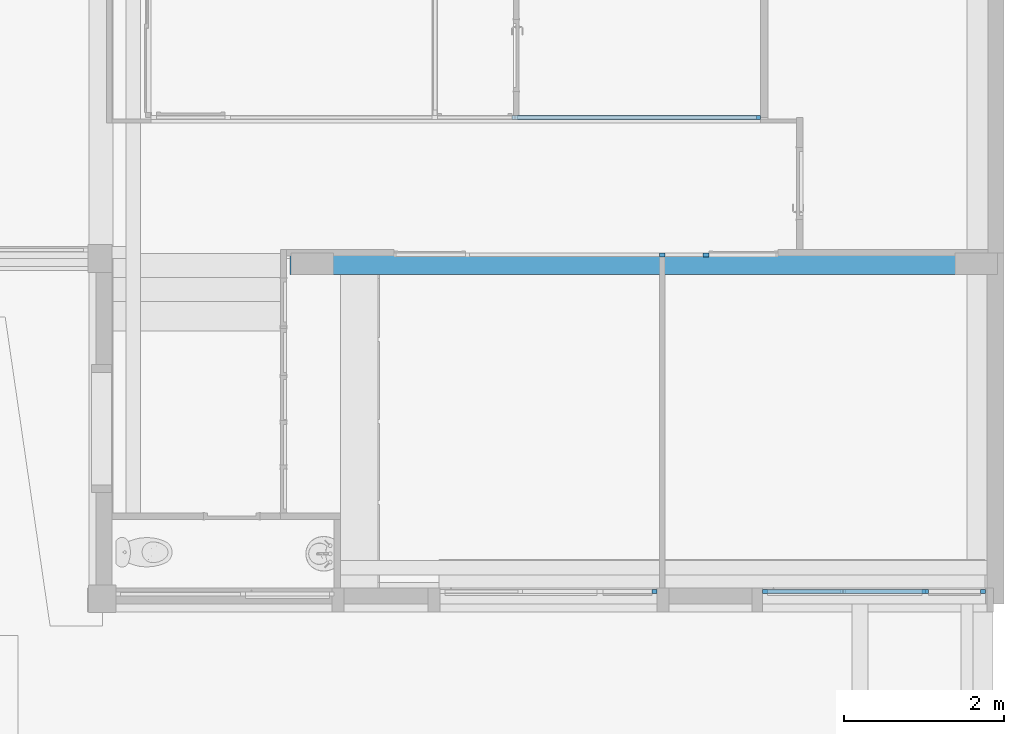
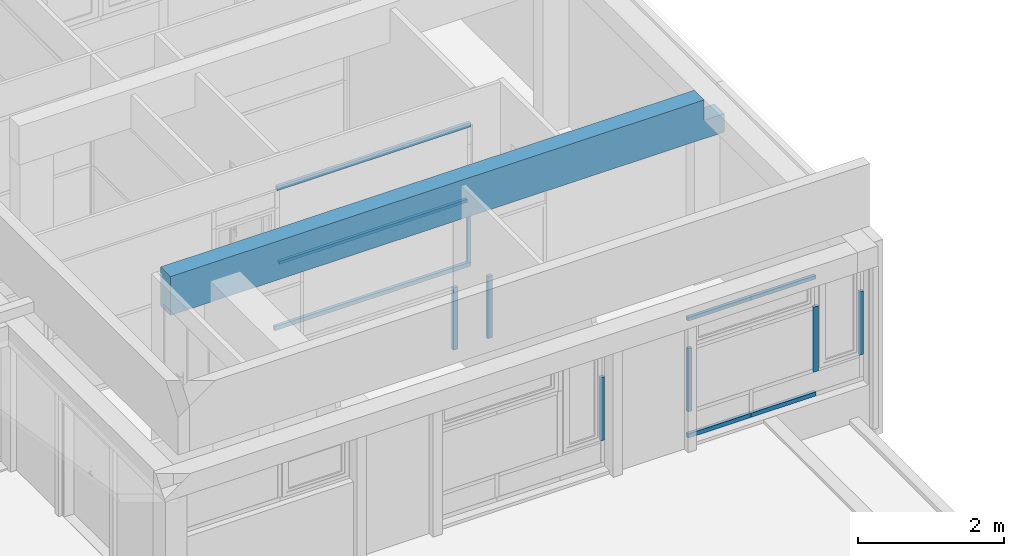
# One storey, part 11 of 49: 14 members, 1 beam, 4 elements without a shape of their own.
"""IFC4 building model written with IfcOpenShell, lengths in metres."""

from ifc_helpers import new_model, entity, si_unit, converted_unit, derived_unit, direction, frame, origin, place, context, subcontext, project, spatial, indexed_curve, outline, extrude, source, transform, mapped, material, type_object, type_shapes, element, aggregate, save


model = new_model("IFC4")

# Units and contexts
model_context = context("Model", 3, precision=1e-05, world=origin(), true_north=direction((6.12303176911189e-17, 1.0)))
body_context = subcontext(model_context, "Body", "Model", "MODEL_VIEW")
ifc_project = project(units=[si_unit("LENGTHUNIT", "METRE"), si_unit("AREAUNIT", "SQUARE_METRE"), si_unit("VOLUMEUNIT", "CUBIC_METRE"), converted_unit("PLANEANGLEUNIT", "DEGREE", entity("IfcRatioMeasure", 0.0174532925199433), si_unit("PLANEANGLEUNIT", "RADIAN"), dimensions=[0, 0, 0, 0, 0, 0, 0]), si_unit("MASSUNIT", "GRAM", prefix="KILO"), derived_unit("MASSDENSITYUNIT", [(si_unit("MASSUNIT", "GRAM", prefix="KILO"), 1), (si_unit("LENGTHUNIT", "METRE"), -3)]), derived_unit("MOMENTOFINERTIAUNIT", [(si_unit("LENGTHUNIT", "METRE"), 4)]), si_unit("TIMEUNIT", "SECOND"), si_unit("FREQUENCYUNIT", "HERTZ"), si_unit("THERMODYNAMICTEMPERATUREUNIT", "DEGREE_CELSIUS"), derived_unit("THERMALTRANSMITTANCEUNIT", [(si_unit("MASSUNIT", "GRAM", prefix="KILO"), 1), (si_unit("THERMODYNAMICTEMPERATUREUNIT", "KELVIN"), -1), (si_unit("TIMEUNIT", "SECOND"), -3)]), derived_unit("VOLUMETRICFLOWRATEUNIT", [(si_unit("LENGTHUNIT", "METRE"), 3), (si_unit("TIMEUNIT", "SECOND"), -1)]), si_unit("ELECTRICCURRENTUNIT", "AMPERE"), si_unit("ELECTRICVOLTAGEUNIT", "VOLT"), si_unit("POWERUNIT", "WATT"), si_unit("FORCEUNIT", "NEWTON", prefix="KILO"), si_unit("ILLUMINANCEUNIT", "LUX"), si_unit("LUMINOUSFLUXUNIT", "LUMEN"), si_unit("LUMINOUSINTENSITYUNIT", "CANDELA"), derived_unit("USERDEFINED", [(si_unit("MASSUNIT", "GRAM", prefix="KILO"), -1), (si_unit("LENGTHUNIT", "METRE"), -2), (si_unit("TIMEUNIT", "SECOND"), 3), (si_unit("LUMINOUSFLUXUNIT", "LUMEN"), 1)]), derived_unit("LINEARVELOCITYUNIT", [(si_unit("LENGTHUNIT", "METRE"), 1), (si_unit("TIMEUNIT", "SECOND"), -1)]), si_unit("PRESSUREUNIT", "PASCAL"), derived_unit("USERDEFINED", [(si_unit("LENGTHUNIT", "METRE"), -2), (si_unit("MASSUNIT", "GRAM", prefix="KILO"), 1), (si_unit("TIMEUNIT", "SECOND"), -2)]), derived_unit("LINEARFORCEUNIT", [(si_unit("MASSUNIT", "GRAM", prefix="KILO"), 1), (si_unit("LENGTHUNIT", "METRE"), 1), (si_unit("TIMEUNIT", "SECOND"), -2), (si_unit("LENGTHUNIT", "METRE"), -1)]), derived_unit("PLANARFORCEUNIT", [(si_unit("MASSUNIT", "GRAM", prefix="KILO"), 1), (si_unit("LENGTHUNIT", "METRE"), 1), (si_unit("TIMEUNIT", "SECOND"), -2), (si_unit("LENGTHUNIT", "METRE"), -2)])], contexts=[model_context])

# Site, building, storey
site_placement = place(None, origin())
site = spatial("IfcSite", under=ifc_project, at=site_placement, Name="Default", CompositionType="ELEMENT")
building_placement = place(site_placement, origin())
building = spatial("IfcBuilding", under=site, at=building_placement, Name="HOTEL CONSULAIRE BOULOGNE SUR MER", CompositionType="ELEMENT")
storey_placement = place(building_placement, frame((0.0, 0.0, 6.81974152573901)))
storey = spatial("IfcBuildingStorey", under=building, at=storey_placement, Name="Niveau 2", CompositionType="ELEMENT", Elevation=6.81974152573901)

# Beam
ifc_material_1 = material(Name="Béton - Béton coulé sur place", Category="Béton")
beam_type = type_object("IfcBeamType", Name="Poutre rectangulaire - Béton:270x650", PredefinedType="BEAM", material=ifc_material_1)
shared_shape_1 = source(origin(), body_context, "Body", "SweptSolid", [
    extrude(outline(indexed_curve([(-4.97999149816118, -0.411428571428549), (3.46892111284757, -0.411428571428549), (3.46892111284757, -0.316428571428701), (3.46892111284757, -0.0714285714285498), (3.71821878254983, -0.0714285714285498), (3.78892111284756, -0.0714285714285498), (3.78892111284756, 0.23857142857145), (3.31621878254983, 0.23857142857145), (-0.302030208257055, 0.23857142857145), (-0.372030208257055, 0.23857142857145), (-4.43750410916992, 0.23857142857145), (-4.96750410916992, 0.23857142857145), (-4.97999149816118, 0.23857142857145), (-4.97999149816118, -0.316428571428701), (-4.97999149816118, -0.411428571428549)], self_intersect=False)), frame((4.97999149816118, 0.0, 0.23857142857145), z_axis=(0.0, 1.0, 0.0), x_axis=(1.0, 0.0, 0.0)), (0.0, 0.0, 1.0), 0.269999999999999),
])
type_shapes(beam_type, [shared_shape_1])
beam_placement = place(storey_placement, frame((13.889725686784, -19.915909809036, 2.402)))
element("IfcBeam", 1, at=beam_placement, inside=storey, type_object=beam_type, material=ifc_material_1, Name="Poutre rectangulaire - Béton:270x650", ObjectType="Poutre rectangulaire - Béton:270x650", PredefinedType="BEAM", context=body_context, shape_type="MappedRepresentation", body=[
    mapped(shared_shape_1, transform((0.0, 0.0, 0.0), scale=1.0)),
])

# Curtain wall, members
curtain_wall_type = type_object("IfcCurtainWallType", Name="Mur-rideau:Simple panneau", PredefinedType="NOTDEFINED")
curtain_wall_1_placement = place(storey_placement, frame((0.0, 0.0, -6.81974152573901)))
curtain_wall_1 = element("IfcCurtainWall", 2, at=curtain_wall_1_placement, inside=storey, type_object=curtain_wall_type, Name="Mur-rideau:Simple panneau", ObjectType="Mur-rideau:Simple panneau", PredefinedType="NOTDEFINED")
ifc_material_2 = material(Name="PVC - Blanc", Category="Plastique")
member_type_1 = type_object("IfcMemberType", Name="Meneau rectangulaire:50 x 35", PredefinedType="MULLION", material=ifc_material_2)
shared_shape_2 = source(origin(), body_context, "Body", "SweptSolid", [
    extrude(outline(indexed_curve([(-0.025, -0.035), (0.025, -0.035), (0.025, 0.035), (-0.025, 0.035), (-0.025, -0.035)], self_intersect=False)), frame((0.0, -0.025, -1.041), z_axis=(0.0, 0.0, 1.0), x_axis=(0.0, -1.0, 0.0)), (0.0, 0.0, 1.0), 1.041),
])
type_shapes(member_type_1, [shared_shape_2])
member_1_placement = place(storey_placement, frame((19.0803568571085, -19.643155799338, 0.0700000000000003), z_axis=(0.0, 0.0, -1.0), x_axis=(-1.0, 0.0, 0.0)))
member_1 = element("IfcMember", 3, at=member_1_placement, type_object=member_type_1, material=ifc_material_2, Name="Meneau rectangulaire:50 x 35", ObjectType="Meneau rectangulaire:50 x 35", PredefinedType="MULLION", context=body_context, shape_type="MappedRepresentation", body=[
    mapped(shared_shape_2, transform((0.0, 0.0, 0.0), scale=1.0)),
])
member_2_placement = place(storey_placement, frame((18.5333568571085, -19.643155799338, 0.0700000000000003), z_axis=(0.0, 0.0, -1.0), x_axis=(-1.0, 0.0, 0.0)))
member_2 = element("IfcMember", 4, at=member_2_placement, type_object=member_type_1, material=ifc_material_2, Name="Meneau rectangulaire:50 x 35", ObjectType="Meneau rectangulaire:50 x 35", PredefinedType="MULLION", context=body_context, shape_type="MappedRepresentation", body=[
    mapped(shared_shape_2, transform((0.0, 0.0, 0.0), scale=1.0)),
])
aggregate(curtain_wall_1, [member_1, member_2])

curtain_wall_2_placement = place(storey_placement, frame((0.0, 0.0, -6.81974152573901)))
curtain_wall_2 = element("IfcCurtainWall", 5, at=curtain_wall_2_placement, inside=storey, type_object=curtain_wall_type, Name="Mur-rideau:Simple panneau", ObjectType="Mur-rideau:Simple panneau", PredefinedType="NOTDEFINED")
member_type_2 = type_object("IfcMemberType", Name="Meneau rectangulaire:50 x 25mm", PredefinedType="MULLION", material=ifc_material_2)
shared_shape_3 = source(origin(), body_context, "Body", "SweptSolid", [
    extrude(outline(indexed_curve([(-0.025, -0.025), (0.025, -0.025), (0.025, 0.025), (-0.025, 0.025), (-0.025, -0.025)], self_intersect=False)), frame((-0.025, -0.025, -1.041), z_axis=(0.0, 0.0, 1.0), x_axis=(0.0, -1.0, 0.0)), (0.0, 0.0, 1.0), 1.041),
])
type_shapes(member_type_2, [shared_shape_3])
member_3_placement = place(storey_placement, frame((19.762075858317, -17.9313078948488, 1.111)))
member_3 = element("IfcMember", 6, at=member_3_placement, type_object=member_type_2, material=ifc_material_2, Name="Meneau rectangulaire:50 x 25mm", ObjectType="Meneau rectangulaire:50 x 25mm", PredefinedType="MULLION", context=body_context, shape_type="MappedRepresentation", body=[
    mapped(shared_shape_3, transform((0.0, 0.0, 0.0), scale=1.0)),
])
member_type_3 = type_object("IfcMemberType", Name="Meneau rectangulaire:50 x 35", PredefinedType="MULLION", material=ifc_material_2)
shared_shape_4 = source(origin(), body_context, "Body", "SweptSolid", [
    extrude(outline(indexed_curve([(-0.025, -0.035), (0.025, -0.035), (0.025, 0.035), (-0.025, 0.035), (-0.025, -0.035)], self_intersect=False)), frame((-0.035, -0.025, -3.101), z_axis=(0.0, 0.0, 1.0), x_axis=(0.0, -1.0, 0.0)), (0.0, 0.0, 1.0), 3.101),
])
type_shapes(member_type_3, [shared_shape_4])
member_4_placement = place(storey_placement, frame((19.762075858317, -17.9313078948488, 0.0), z_axis=(1.0, 0.0, 0.0), x_axis=(0.0, 0.0, -1.0)))
member_4 = element("IfcMember", 7, at=member_4_placement, type_object=member_type_3, material=ifc_material_2, Name="Meneau rectangulaire:50 x 35", ObjectType="Meneau rectangulaire:50 x 35", PredefinedType="MULLION", context=body_context, shape_type="MappedRepresentation", body=[
    mapped(shared_shape_4, transform((0.0, 0.0, 0.0), scale=1.0)),
])
member_type_4 = type_object("IfcMemberType", Name="Meneau rectangulaire:50 x 35", PredefinedType="MULLION", material=ifc_material_2)
shared_shape_5 = source(origin(), body_context, "Body", "SweptSolid", [
    extrude(outline(indexed_curve([(-0.025, -0.035), (0.025, -0.035), (0.025, 0.035), (-0.025, 0.035), (-0.025, -0.035)], self_intersect=False)), frame((-0.035, -0.025, -3.066), z_axis=(0.0, 0.0, 1.0), x_axis=(0.0, -1.0, 0.0)), (0.0, 0.0, 1.0), 3.066),
])
type_shapes(member_type_4, [shared_shape_5])
member_5_placement = place(storey_placement, frame((16.696075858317, -17.9313078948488, 2.402), z_axis=(-1.0, 0.0, 0.0), x_axis=(0.0, 0.0, 1.0)))
member_5 = element("IfcMember", 8, at=member_5_placement, type_object=member_type_4, material=ifc_material_2, Name="Meneau rectangulaire:50 x 35", ObjectType="Meneau rectangulaire:50 x 35", PredefinedType="MULLION", context=body_context, shape_type="MappedRepresentation", body=[
    mapped(shared_shape_5, transform((0.0, 0.0, 0.0), scale=1.0)),
])
member_type_5 = type_object("IfcMemberType", Name="Meneau rectangulaire:50 x 25mm", PredefinedType="MULLION", material=ifc_material_2)
shared_shape_6 = source(origin(), body_context, "Body", "SweptSolid", [
    extrude(outline(indexed_curve([(-0.025, -0.025), (0.025, -0.025), (0.025, 0.025), (-0.025, 0.025), (-0.025, -0.025)], self_intersect=False)), frame((0.0, -0.025, -2.981), z_axis=(0.0, 0.0, 1.0), x_axis=(0.0, -1.0, 0.0)), (0.0, 0.0, 1.0), 2.981),
])
type_shapes(member_type_5, [shared_shape_6])
member_6_placement = place(storey_placement, frame((16.731075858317, -17.9313078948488, 1.111), z_axis=(-1.0, 0.0, 0.0), x_axis=(0.0, 0.0, 1.0)))
member_6 = element("IfcMember", 9, at=member_6_placement, type_object=member_type_5, material=ifc_material_2, Name="Meneau rectangulaire:50 x 25mm", ObjectType="Meneau rectangulaire:50 x 25mm", PredefinedType="MULLION", context=body_context, shape_type="MappedRepresentation", body=[
    mapped(shared_shape_6, transform((0.0, 0.0, 0.0), scale=1.0)),
])
aggregate(curtain_wall_2, [member_4, member_3, member_5, member_6])

curtain_wall_3_placement = place(storey_placement, frame((0.0, 0.0, -6.81974152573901)))
curtain_wall_3 = element("IfcCurtainWall", 10, at=curtain_wall_3_placement, inside=storey, type_object=curtain_wall_type, Name="Mur-rideau:Simple panneau", ObjectType="Mur-rideau:Simple panneau", PredefinedType="NOTDEFINED")
member_type_6 = type_object("IfcMemberType", Name="Meneau rectangulaire:50 x 35", PredefinedType="MULLION", material=ifc_material_2)
shared_shape_7 = source(origin(), body_context, "Body", "SweptSolid", [
    extrude(outline(indexed_curve([(-0.025, -0.035), (0.025, -0.035), (0.025, 0.035), (-0.025, 0.035), (-0.025, -0.035)], self_intersect=False)), frame((-0.035, -0.025, -1.02800000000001), z_axis=(0.0, 0.0, 1.0), x_axis=(0.0, -1.0, 0.0)), (0.0, 0.0, 1.0), 1.028),
])
type_shapes(member_type_6, [shared_shape_7])
member_7_placement = place(storey_placement, frame((20.7880413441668, -23.8933633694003, 0.693999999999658), z_axis=(-1.0, 0.0, 0.0), x_axis=(0.0, 0.0, -1.0)))
member_7 = element("IfcMember", 11, at=member_7_placement, type_object=member_type_6, material=ifc_material_2, Name="Meneau rectangulaire:50 x 35", ObjectType="Meneau rectangulaire:50 x 35", PredefinedType="MULLION", context=body_context, shape_type="MappedRepresentation", body=[
    mapped(shared_shape_7, transform((0.0, 0.0, 0.0), scale=1.0)),
])
member_type_7 = type_object("IfcMemberType", Name="Meneau rectangulaire:50 x 35", PredefinedType="MULLION", material=ifc_material_2)
shared_shape_8 = source(origin(), body_context, "Body", "SweptSolid", [
    extrude(outline(indexed_curve([(-0.025, -0.035), (0.025, -0.035), (0.025, 0.035), (-0.025, 0.035), (-0.025, -0.035)], self_intersect=False)), frame((-0.035, -0.025, -1.0), z_axis=(0.0, 0.0, 1.0), x_axis=(0.0, -1.0, 0.0)), (0.0, 0.0, 1.0), 0.999999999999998),
])
type_shapes(member_type_7, [shared_shape_8])
member_8_placement = place(storey_placement, frame((19.7880413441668, -23.8933633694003, 0.693999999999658), z_axis=(-1.0, 0.0, 0.0), x_axis=(0.0, 0.0, -1.0)))
member_8 = element("IfcMember", 12, at=member_8_placement, type_object=member_type_7, material=ifc_material_2, Name="Meneau rectangulaire:50 x 35", ObjectType="Meneau rectangulaire:50 x 35", PredefinedType="MULLION", context=body_context, shape_type="MappedRepresentation", body=[
    mapped(shared_shape_8, transform((0.0, 0.0, 0.0), scale=1.0)),
])
member_type_8 = type_object("IfcMemberType", Name="Meneau rectangulaire:50 x 30", PredefinedType="MULLION", material=ifc_material_2)
shared_shape_9 = source(origin(), body_context, "Body", "SweptSolid", [
    extrude(outline(indexed_curve([(-0.025, -0.03), (0.025, -0.03), (0.025, 0.03), (-0.025, 0.03), (-0.025, -0.03)], self_intersect=False)), frame((-0.03, -0.025, -1.06), z_axis=(0.0, 0.0, 1.0), x_axis=(0.0, -1.0, 0.0)), (0.0, 0.0, 1.0), 1.06),
])
type_shapes(member_type_8, [shared_shape_9])
member_9_placement = place(storey_placement, frame((19.7880413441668, -23.8933633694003, 2.18999999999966), z_axis=(0.0, 0.0, 1.0), x_axis=(-1.0, 0.0, 0.0)))
member_9 = element("IfcMember", 13, at=member_9_placement, type_object=member_type_8, material=ifc_material_2, Name="Meneau rectangulaire:50 x 30", ObjectType="Meneau rectangulaire:50 x 30", PredefinedType="MULLION", context=body_context, shape_type="MappedRepresentation", body=[
    mapped(shared_shape_9, transform((0.0, 0.0, 0.0), scale=1.0)),
])
member_type_9 = type_object("IfcMemberType", Name="Meneau rectangulaire:50 x 30", PredefinedType="MULLION", material=ifc_material_2)
shared_shape_10 = source(origin(), body_context, "Body", "SweptSolid", [
    extrude(outline(indexed_curve([(-0.025, -0.03), (0.025, -0.03), (0.025, 0.03), (-0.025, 0.03), (-0.025, -0.03)], self_intersect=False)), frame((-0.03, -0.025, -1.06), z_axis=(0.0, 0.0, 1.0), x_axis=(0.0, -1.0, 0.0)), (0.0, 0.0, 1.0), 1.06),
])
type_shapes(member_type_9, [shared_shape_10])
member_10_placement = place(storey_placement, frame((22.5650413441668, -23.8933633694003, 1.12999999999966), z_axis=(0.0, 0.0, -1.0), x_axis=(1.0, 0.0, 0.0)))
member_10 = element("IfcMember", 14, at=member_10_placement, type_object=member_type_9, material=ifc_material_2, Name="Meneau rectangulaire:50 x 30", ObjectType="Meneau rectangulaire:50 x 30", PredefinedType="MULLION", context=body_context, shape_type="MappedRepresentation", body=[
    mapped(shared_shape_10, transform((0.0, 0.0, 0.0), scale=1.0)),
])

# Curtain wall, member
curtain_wall_4_placement = place(storey_placement, frame((0.0, 0.0, -6.81974152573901)))
curtain_wall_4 = element("IfcCurtainWall", 15, at=curtain_wall_4_placement, inside=storey, type_object=curtain_wall_type, Name="Mur-rideau:Simple panneau", ObjectType="Mur-rideau:Simple panneau", PredefinedType="NOTDEFINED")
member_11_placement = place(storey_placement, frame((18.4670413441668, -23.8933633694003, 1.12999999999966), z_axis=(0.0, 0.0, -1.0), x_axis=(1.0, 0.0, 0.0)))
member_11 = element("IfcMember", 16, at=member_11_placement, type_object=member_type_9, material=ifc_material_2, Name="Meneau rectangulaire:50 x 30", ObjectType="Meneau rectangulaire:50 x 30", PredefinedType="MULLION", context=body_context, shape_type="MappedRepresentation", body=[
    mapped(shared_shape_10, transform((0.0, 0.0, 0.0), scale=1.0)),
])
aggregate(curtain_wall_4, [member_11])

# Member
member_type_10 = type_object("IfcMemberType", Name="Meneau rectangulaire:50 x 30", PredefinedType="MULLION", material=ifc_material_2)
shared_shape_11 = source(origin(), body_context, "Body", "SweptSolid", [
    extrude(outline(indexed_curve([(-0.025, -0.03), (0.025, -0.03), (0.025, 0.03), (-0.025, 0.03), (-0.025, -0.03)], self_intersect=False)), frame((-0.03, -0.025, -1.0), z_axis=(0.0, 0.0, 1.0), x_axis=(0.0, -1.0, 0.0)), (0.0, 0.0, 1.0), 0.999999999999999),
])
type_shapes(member_type_10, [shared_shape_11])
member_12_placement = place(storey_placement, frame((20.7880413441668, -23.8933633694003, 2.712), z_axis=(1.0, 0.0, 0.0), x_axis=(0.0, 0.0, 1.0)))
member_12 = element("IfcMember", 17, at=member_12_placement, type_object=member_type_10, material=ifc_material_2, Name="Meneau rectangulaire:50 x 30", ObjectType="Meneau rectangulaire:50 x 30", PredefinedType="MULLION", context=body_context, shape_type="MappedRepresentation", body=[
    mapped(shared_shape_11, transform((0.0, 0.0, 0.0), scale=1.0)),
])

member_type_11 = type_object("IfcMemberType", Name="Meneau rectangulaire:50 x 30", PredefinedType="MULLION", material=ifc_material_2)
shared_shape_12 = source(origin(), body_context, "Body", "SweptSolid", [
    extrude(outline(indexed_curve([(-0.025, -0.03), (0.025, -0.03), (0.025, 0.03), (-0.025, 0.03), (-0.025, -0.03)], self_intersect=False)), frame((-0.03, -0.025, -1.028), z_axis=(0.0, 0.0, 1.0), x_axis=(0.0, -1.0, 0.0)), (0.0, 0.0, 1.0), 1.028),
])
type_shapes(member_type_11, [shared_shape_12])
member_13_placement = place(storey_placement, frame((21.8160413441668, -23.8933633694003, 2.712), z_axis=(1.0, 0.0, 0.0), x_axis=(0.0, 0.0, 1.0)))
member_13 = element("IfcMember", 18, at=member_13_placement, type_object=member_type_11, material=ifc_material_2, Name="Meneau rectangulaire:50 x 30", ObjectType="Meneau rectangulaire:50 x 30", PredefinedType="MULLION", context=body_context, shape_type="MappedRepresentation", body=[
    mapped(shared_shape_12, transform((0.0, 0.0, 0.0), scale=1.0)),
])

member_type_12 = type_object("IfcMemberType", Name="Meneau rectangulaire:50 x 40", PredefinedType="MULLION", material=ifc_material_2)
shared_shape_13 = source(origin(), body_context, "Body", "SweptSolid", [
    extrude(outline(indexed_curve([(-0.025, -0.04), (0.025, -0.04), (0.025, 0.04), (-0.025, 0.04), (-0.025, -0.04)], self_intersect=False)), frame((0.0, -0.025, -1.09), z_axis=(0.0, 0.0, 1.0), x_axis=(0.0, -1.0, 0.0)), (0.0, 0.0, 1.0), 1.09),
])
type_shapes(member_type_12, [shared_shape_13])
member_14_placement = place(storey_placement, frame((21.8160413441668, -23.8933633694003, 1.09999999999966), z_axis=(0.0, 0.0, -1.0), x_axis=(1.0, 0.0, 0.0)))
member_14 = element("IfcMember", 19, at=member_14_placement, type_object=member_type_12, material=ifc_material_2, Name="Meneau rectangulaire:50 x 40", ObjectType="Meneau rectangulaire:50 x 40", PredefinedType="MULLION", context=body_context, shape_type="MappedRepresentation", body=[
    mapped(shared_shape_13, transform((0.0, 0.0, 0.0), scale=1.0)),
])

aggregate(curtain_wall_3, [member_7, member_8, member_9, member_10, member_12, member_13, member_14])

save(model, "model.ifc")
